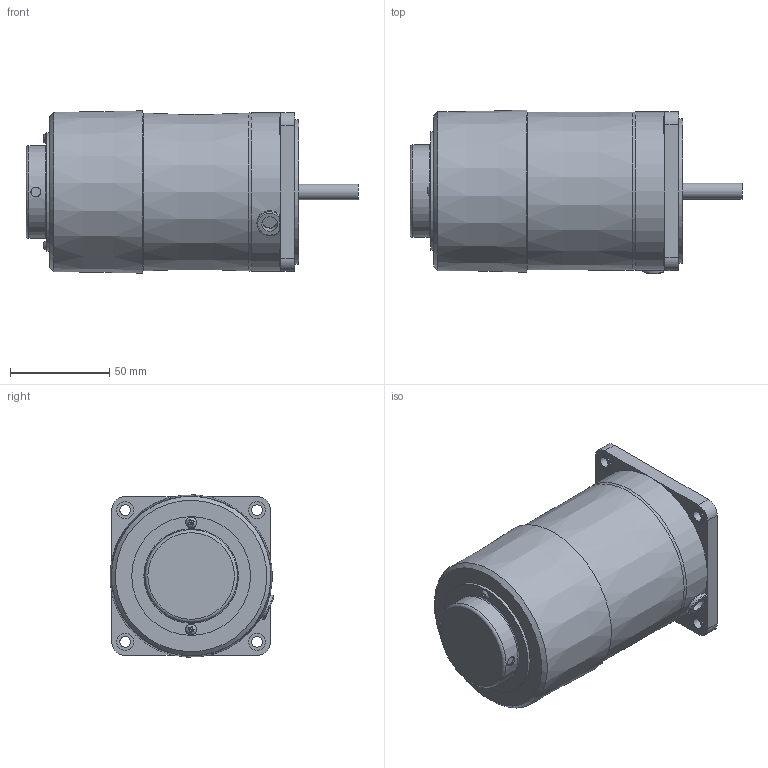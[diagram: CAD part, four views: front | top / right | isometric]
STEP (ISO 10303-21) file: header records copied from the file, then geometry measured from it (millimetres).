
FILE_DESCRIPTION((''),'2;1');
FILE_NAME('D:\김성묵\업무폴더\개발 파일\프로젝트 개발 AB등급\AC표준형 개발자료\90각 이하 표준형 개발\도면작성 자료\3D 도면\홈페이지용 3D 파일\25W MOTOR\ES TYPE\S8R15(25)S-ES.stp','2015-03-30T20:21:56',('smkim'),(''),'Autodesk Inventor 2012','Autodesk Inventor 2012','');
FILE_SCHEMA(('AUTOMOTIVE_DESIGN { 1 0 10303 214 1 1 1 1 }'));
Length unit declared in the file: millimetre
Products named in the file (1): 부품112
Bounding box: 167.5 x 82.72 x 81.86 mm (x, y, z)
Volume: 652717.3 mm3; surface area: 51027.1 mm2
Topology: 1 solids, 6 shells, 143 faces, 326 edges, 213 vertices
Faces by surface type: plane 86, cylinder 43, torus 9, cone 3, bspline 2
Full cylindrical faces by diameter (mm): 3 x2, 3.5 x2, 5 x1, 5.5 x4, 5.6 x2, 8 x2, 8.5 x4, 34 x1, 44.7 x1, 46.7 x1, 47.7 x1, 59.9 x1, 73 x1, 78 x1, 80 x1
Entity records: 4114 total; most frequent: CARTESIAN_POINT 964, DIRECTION 632, ORIENTED_EDGE 560, EDGE_CURVE 280, AXIS2_PLACEMENT_3D 241, EDGE_LOOP 213, VERTEX_POINT 205, VECTOR 150
